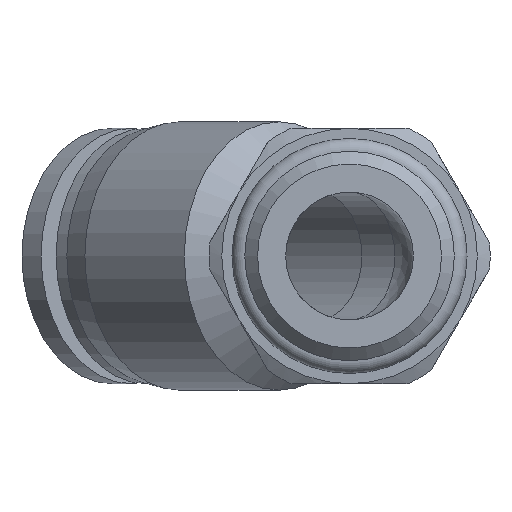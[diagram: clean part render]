
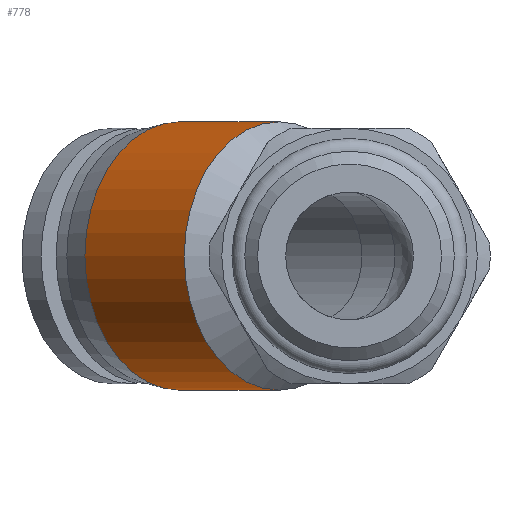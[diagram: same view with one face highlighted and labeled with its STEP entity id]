
A CAD part, front view. The second image highlights one B-rep face of the part: STEP entity #778.
In plain terms, the highlighted cylindrical face has radius 10.5 mm (diameter 21 mm), a full revolution.
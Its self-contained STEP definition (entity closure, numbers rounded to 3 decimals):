
#31=FACE_BOUND('',#219,.T.);
#58=CYLINDRICAL_SURFACE('',#885,10.5);
#146=FACE_OUTER_BOUND('',#218,.T.);
#218=EDGE_LOOP('',(#662));
#219=EDGE_LOOP('',(#663));
#277=CIRCLE('',#866,10.5);
#286=CIRCLE('',#884,10.5);
#389=VERTEX_POINT('',#1380);
#398=VERTEX_POINT('',#1407);
#487=EDGE_CURVE('',#389,#389,#277,.T.);
#496=EDGE_CURVE('',#398,#398,#286,.T.);
#662=ORIENTED_EDGE('',*,*,#487,.F.);
#663=ORIENTED_EDGE('',*,*,#496,.T.);
#778=ADVANCED_FACE('',(#146,#31),#58,.T.);
#866=AXIS2_PLACEMENT_3D('',#1381,#1075,#1076);
#884=AXIS2_PLACEMENT_3D('',#1408,#1111,#1112);
#885=AXIS2_PLACEMENT_3D('',#1409,#1113,#1114);
#1075=DIRECTION('center_axis',(0.707,-0.707,0.));
#1076=DIRECTION('ref_axis',(0.707,0.707,0.));
#1111=DIRECTION('center_axis',(0.707,-0.707,0.));
#1112=DIRECTION('ref_axis',(0.707,0.707,0.));
#1113=DIRECTION('center_axis',(0.707,-0.707,0.));
#1114=DIRECTION('ref_axis',(0.707,0.707,0.));
#1380=CARTESIAN_POINT('',(1.916,40.101,0.));
#1381=CARTESIAN_POINT('Origin',(-5.509,32.676,0.));
#1407=CARTESIAN_POINT('',(-5.863,47.879,0.));
#1408=CARTESIAN_POINT('Origin',(-13.287,40.455,0.));
#1409=CARTESIAN_POINT('Origin',(-9.398,36.565,0.));
